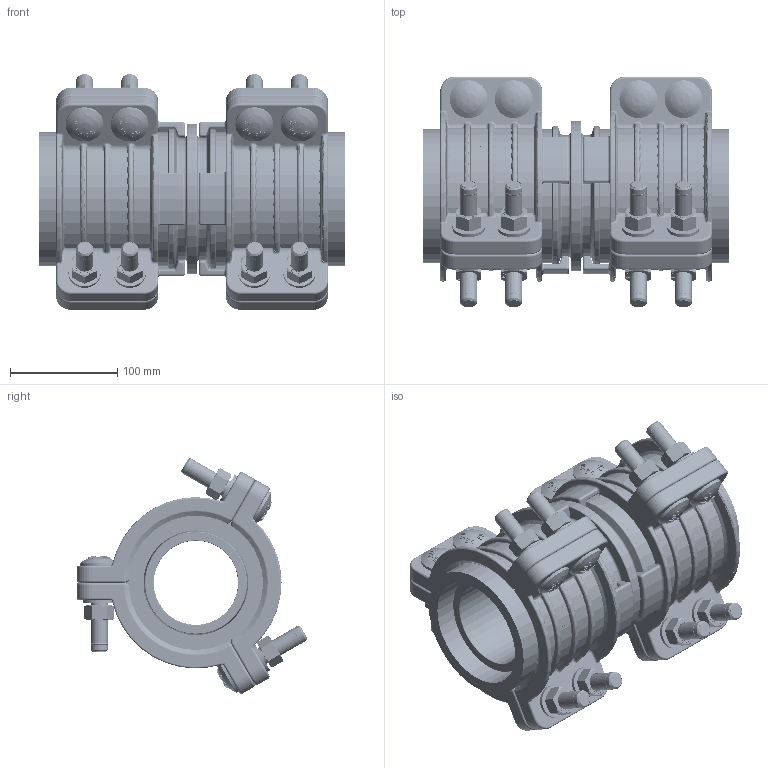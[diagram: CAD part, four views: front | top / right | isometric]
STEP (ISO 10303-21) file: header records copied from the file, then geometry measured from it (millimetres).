
FILE_DESCRIPTION((''),'2;1');
FILE_NAME('13642_3_ASM','2023-08-31T09:15:07',('catrombini'),(''),'CREO PARAMETRIC BY PTC INC, 2020454','CREO PARAMETRIC BY PTC INC, 2020454','');
FILE_SCHEMA(('CONFIG_CONTROL_DESIGN'));
Length unit declared in the file: millimetre
Products named in the file (8): 13637_MACHINED_5; 13638_3; 12568_7; 10467_4; 10493_6; 7896_10; PE_125_SDR11; 13642_3_ASM
Assembly tree (57 placements, depth 2):
  13642_3_ASM
    13637_MACHINED_5
    13638_3  x6
    12568_7  x12
    10467_4  x12
    10493_6  x12
    7896_10  x12
    PE_125_SDR11  x2
Bounding box: 284 x 214.74 x 219.45 mm (x, y, z)
Volume: 3333041 mm3; surface area: 1031393.7 mm2
Topology: 57 solids, 93 shells, 9486 faces, 25362 edges, 16276 vertices
Faces by surface type: plane 6634, cylinder 1084, torus 670, bspline 456, cone 402, sphere 240
Entity records: 45097 total; most frequent: CARTESIAN_POINT 13396, ORIENTED_EDGE 6758, DIRECTION 6456, EDGE_CURVE 3387, AXIS2_PLACEMENT_3D 2543, VERTEX_POINT 2123, VECTOR 1370, LINE 1370
